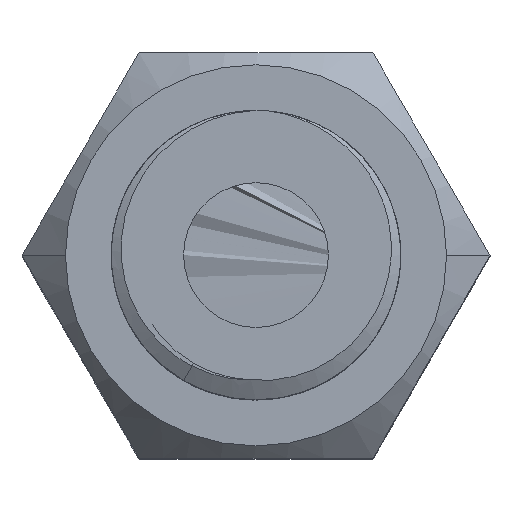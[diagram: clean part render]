
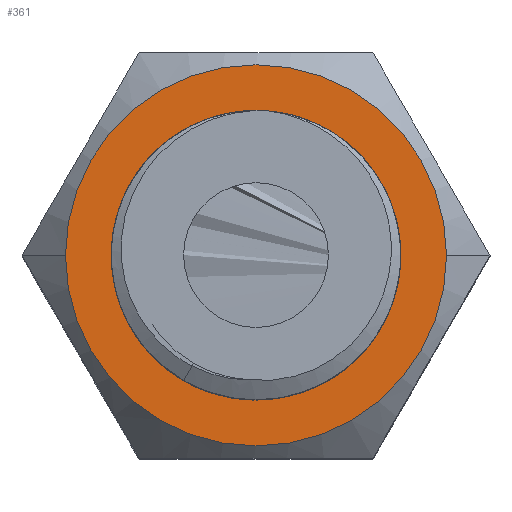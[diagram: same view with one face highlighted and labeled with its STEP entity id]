
A CAD part, top view. The second image highlights one B-rep face of the part: STEP entity #361.
In plain terms, the highlighted planar face has unit normal (0, 0, 1).
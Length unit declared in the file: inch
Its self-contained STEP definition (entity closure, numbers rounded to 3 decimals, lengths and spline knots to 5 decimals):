
#10 = CARTESIAN_POINT ( 'NONE',  ( 0.17272, 0.09806, 0.7092 ) ) ;
#69 = CIRCLE ( 'NONE', #1836, 0.25937 ) ;
#72 = CARTESIAN_POINT ( 'NONE',  ( 0.197, 0., 0.7092 ) ) ;
#230 = CARTESIAN_POINT ( 'NONE',  ( 0.19638, -0.01546, 0.70918 ) ) ;
#243 = CARTESIAN_POINT ( 'NONE',  ( -0.19585, 0.03316, 0.7092 ) ) ;
#255 = CARTESIAN_POINT ( 'NONE',  ( 0., 0., 0.7092 ) ) ;
#257 = CARTESIAN_POINT ( 'NONE',  ( 0.08774, -0.17822, 0.7092 ) ) ;
#297 = FACE_BOUND ( 'NONE', #954, .T. ) ;
#359 = CARTESIAN_POINT ( 'NONE',  ( 0.25937, 0., 0.7092 ) ) ;
#361 = ADVANCED_FACE ( 'NONE', ( #297, #1312 ), #2797, .T. ) ;
#450 = VERTEX_POINT ( 'NONE', #359 ) ;
#464 = CARTESIAN_POINT ( 'NONE',  ( -0.19785, -0.01773, 0.7092 ) ) ;
#478 = CARTESIAN_POINT ( 'NONE',  ( 0.02932, 0.19647, 0.7092 ) ) ;
#506 = CARTESIAN_POINT ( 'NONE',  ( 0.19437, -0.04084, 0.7092 ) ) ;
#581 = VERTEX_POINT ( 'NONE', #72 ) ;
#659 = EDGE_CURVE ( 'NONE', #450, #1642, #2945, .T. ) ;
#716 = ORIENTED_EDGE ( 'NONE', *, *, #659, .F. ) ;
#739 = CARTESIAN_POINT ( 'NONE',  ( -0.16877, 0.10476, 0.7092 ) ) ;
#744 = VERTEX_POINT ( 'NONE', #1827 ) ;
#753 = CARTESIAN_POINT ( 'NONE',  ( -0.18985, 0.05841, 0.7092 ) ) ;
#766 = CARTESIAN_POINT ( 'NONE',  ( 0.05467, 0.19095, 0.7092 ) ) ;
#947 = AXIS2_PLACEMENT_3D ( 'NONE', #255, #2896, #1431 ) ;
#954 = EDGE_LOOP ( 'NONE', ( #1300, #1257 ) ) ;
#966 = CARTESIAN_POINT ( 'NONE',  ( -0.0216, 0.19744, 0.7092 ) ) ;
#978 = CARTESIAN_POINT ( 'NONE',  ( 0.03953, -0.19465, 0.7092 ) ) ;
#992 = CARTESIAN_POINT ( 'NONE',  ( 0.12282, 0.15609, 0.7092 ) ) ;
#1045 = CARTESIAN_POINT ( 'NONE',  ( 0., 0., 0.7092 ) ) ;
#1147 = EDGE_CURVE ( 'NONE', #581, #744, #2391, .T. ) ;
#1211 = CARTESIAN_POINT ( 'NONE',  ( -0.10805, -0.16667, 0.7092 ) ) ;
#1219 = DIRECTION ( 'NONE',  ( 0., 0., -1. ) ) ;
#1243 = CARTESIAN_POINT ( 'NONE',  ( -0.06213, -0.18868, 0.7092 ) ) ;
#1256 = CARTESIAN_POINT ( 'NONE',  ( -0.16305, -0.11344, 0.7092 ) ) ;
#1257 = ORIENTED_EDGE ( 'NONE', *, *, #2224, .F. ) ;
#1300 = ORIENTED_EDGE ( 'NONE', *, *, #1147, .F. ) ;
#1312 = FACE_OUTER_BOUND ( 'NONE', #2552, .T. ) ;
#1362 = DIRECTION ( 'NONE',  ( 0., 0., 1. ) ) ;
#1431 = DIRECTION ( 'NONE',  ( 0.997, -0.078, 0. ) ) ;
#1433 = CARTESIAN_POINT ( 'NONE',  ( 0.14861, -0.13181, 0.7092 ) ) ;
#1447 = CARTESIAN_POINT ( 'NONE',  ( -0.11663, 0.16081, 0.7092 ) ) ;
#1467 = EDGE_CURVE ( 'NONE', #1642, #450, #69, .T. ) ;
#1474 = CARTESIAN_POINT ( 'NONE',  ( -0.04716, 0.19297, 0.7092 ) ) ;
#1562 = DIRECTION ( 'NONE',  ( 0., 0., -1. ) ) ;
#1564 = ORIENTED_EDGE ( 'NONE', *, *, #1467, .F. ) ;
#1597 = CARTESIAN_POINT ( 'NONE',  ( 0., 0., 0.7092 ) ) ;
#1642 = VERTEX_POINT ( 'NONE', #2865 ) ;
#1670 = CARTESIAN_POINT ( 'NONE',  ( 0.19201, 0.05092, 0.7092 ) ) ;
#1697 = CARTESIAN_POINT ( 'NONE',  ( -0.17646, -0.09123, 0.7092 ) ) ;
#1710 = CARTESIAN_POINT ( 'NONE',  ( -0.037, -0.19515, 0.7092 ) ) ;
#1827 = CARTESIAN_POINT ( 'NONE',  ( 0.19638, -0.01546, 0.70918 ) ) ;
#1836 = AXIS2_PLACEMENT_3D ( 'NONE', #1983, #1562, #2527 ) ;
#1916 = CARTESIAN_POINT ( 'NONE',  ( -0.09466, 0.17462, 0.7092 ) ) ;
#1928 = CARTESIAN_POINT ( 'NONE',  ( 0.1645, -0.1113, 0.7092 ) ) ;
#1942 = CARTESIAN_POINT ( 'NONE',  ( 0.15849, 0.11975, 0.7092 ) ) ;
#1983 = CARTESIAN_POINT ( 'NONE',  ( 0., 0., 0.7092 ) ) ;
#2161 = CARTESIAN_POINT ( 'NONE',  ( 0.01383, -0.19817, 0.7092 ) ) ;
#2166 = DIRECTION ( 'NONE',  ( 1., 0., 0. ) ) ;
#2224 = EDGE_CURVE ( 'NONE', #744, #581, #2386, .T. ) ;
#2381 = CARTESIAN_POINT ( 'NONE',  ( 0.1102, -0.16524, 0.7092 ) ) ;
#2386 = CIRCLE ( 'NONE', #947, 0.197 ) ;
#2391 = B_SPLINE_CURVE_WITH_KNOTS ( 'NONE', 3,
 ( #2857, #2631, #1670, #10, #1942, #992, #2911, #766, #478, #966, #1474, #1916, #1447, #2643, #739, #753, #243, #464, #2396, #1697, #1256, #2657, #1211, #1243, #1710, #2161, #978, #257, #2381, #1433, #1928, #2683, #506, #230 ),
 .UNSPECIFIED., .F., .F.,
 ( 4, 2, 2, 2, 2, 2, 2, 2, 2, 2, 2, 2, 2, 2, 2, 2, 4 ),
 ( 0., 0.0625, 0.125, 0.1875, 0.25, 0.3125, 0.375, 0.4375, 0.5, 0.5625, 0.625, 0.6875, 0.75, 0.8125, 0.875, 0.9375, 1. ),
 .UNSPECIFIED. ) ;
#2396 = CARTESIAN_POINT ( 'NONE',  ( -0.19384, -0.04336, 0.7092 ) ) ;
#2442 = DIRECTION ( 'NONE',  ( 1., 0., 0. ) ) ;
#2527 = DIRECTION ( 'NONE',  ( -1., 0., 0. ) ) ;
#2541 = AXIS2_PLACEMENT_3D ( 'NONE', #1045, #1219, #2166 ) ;
#2552 = EDGE_LOOP ( 'NONE', ( #1564, #716 ) ) ;
#2631 = CARTESIAN_POINT ( 'NONE',  ( 0.19698, 0.02547, 0.7092 ) ) ;
#2643 = CARTESIAN_POINT ( 'NONE',  ( -0.15367, 0.12586, 0.7092 ) ) ;
#2657 = CARTESIAN_POINT ( 'NONE',  ( -0.12886, -0.15118, 0.7092 ) ) ;
#2683 = CARTESIAN_POINT ( 'NONE',  ( 0.18742, -0.06583, 0.7092 ) ) ;
#2797 = PLANE ( 'NONE',  #2852 ) ;
#2852 = AXIS2_PLACEMENT_3D ( 'NONE', #1597, #1362, #2442 ) ;
#2857 = CARTESIAN_POINT ( 'NONE',  ( 0.197, 0., 0.7092 ) ) ;
#2865 = CARTESIAN_POINT ( 'NONE',  ( -0.25937, 0., 0.7092 ) ) ;
#2896 = DIRECTION ( 'NONE',  ( 0., 0., 1. ) ) ;
#2911 = CARTESIAN_POINT ( 'NONE',  ( 0.10144, 0.17079, 0.7092 ) ) ;
#2945 = CIRCLE ( 'NONE', #2541, 0.25937 ) ;
